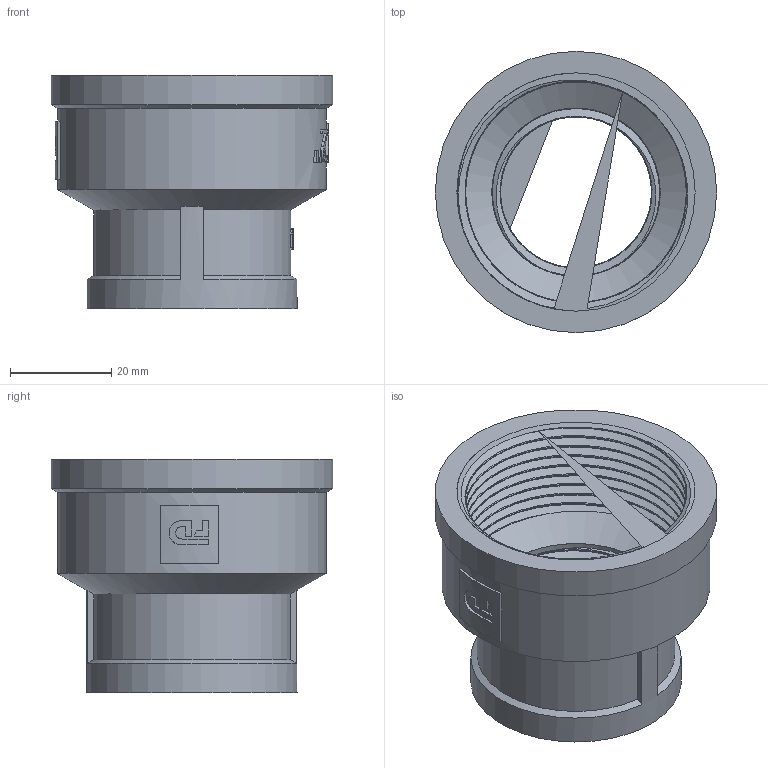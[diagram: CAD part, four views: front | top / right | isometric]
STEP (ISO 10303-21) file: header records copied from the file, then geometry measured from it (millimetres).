
FILE_DESCRIPTION(/* description */ (''),/* implementation_level */ '2;1');
FILE_NAME(/* name */ 'C:\Users\Doom\Desktop\Фадотех\Резьба\M17 14.09.2020\M17 14.09.2020.stp',/* time_stamp */ '2022-01-05T23:35:28+02:00',/* author */ ('Doom'),/* organization */ (''),/* preprocessor_version */ 'ST-DEVELOPER v18',/* originating_system */ 'Autodesk Inventor 2020',/* authorisation */ '');
FILE_SCHEMA (('AUTOMOTIVE_DESIGN { 1 0 10303 214 3 1 1 }'));
Length unit declared in the file: millimetre
Products named in the file (1): M17 14.09.2020
Bounding box: 55.5 x 55.5 x 46 mm (x, y, z)
Volume: 29540.3 mm3; surface area: 30563.5 mm2
Topology: 3 solids, 3 shells, 161 faces, 442 edges, 295 vertices
Faces by surface type: plane 84, cylinder 42, bspline 30, cone 5
Full cylindrical faces by diameter (mm): 29.776 x8, 33.2 x2, 41.5 x1, 43.576 x9, 47 x2, 53 x1, 55.5 x1
Entity records: 15834 total; most frequent: CARTESIAN_POINT 11909, ORIENTED_EDGE 868, DIRECTION 717, EDGE_CURVE 434, VERTEX_POINT 291, AXIS2_PLACEMENT_3D 269, LINE 179, VECTOR 179
